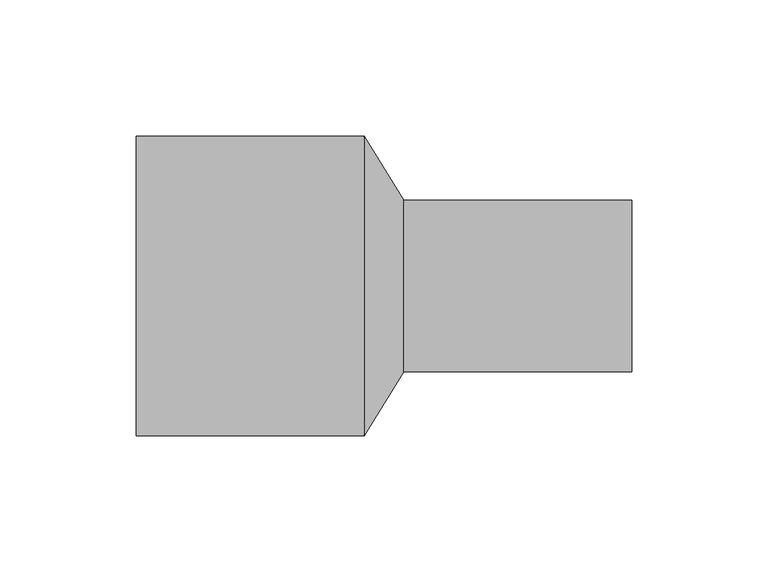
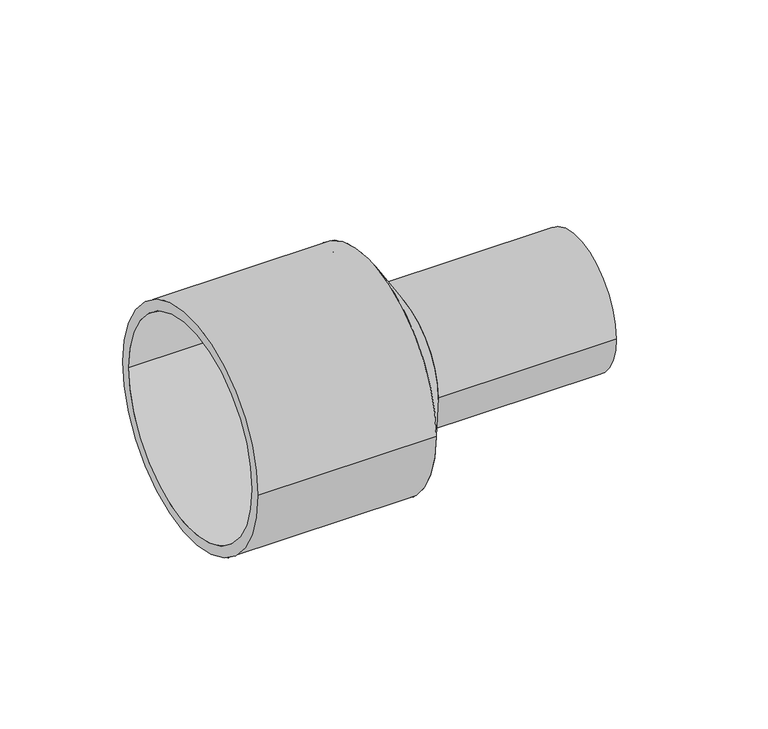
"""IFC4 building model written with IfcOpenShell, lengths in millimetres: pipe fitting geometry, EGB_VASEN_ PPR_Manguito reductor a tope WXRB110 : Manguito reductor a tope WXRB110."""

from ifc_helpers import new_model, si_unit, point, frame, origin, origin_2d, place, context, project, spatial, polyline, circle_curve, trimmed, segment, composite_curve, outline, extrude, source, transform, mapped, element, save
from ifc_brep_helpers import plane_surface, revolved_surface, advanced_brep


def pipe_fitting_4f7f3c7f(model_context):
    return source(origin(), model_context, "Body", "SolidModel", [
        extrude(outline(composite_curve([segment(trimmed(circle_curve(origin_2d(), 31.5), [point((-31.5, 0.0))], [point((31.5, 0.0))], False, "CARTESIAN"), True, "CONTINUOUS"), segment(trimmed(circle_curve(origin_2d(), 31.5), [point((31.5, 0.0))], [point((-31.5, 0.0))], False, "CARTESIAN"), True, "CONTINUOUS")], self_intersect=False), holes=[composite_curve([segment(trimmed(circle_curve(origin_2d(), 26.5), [point((-26.5, 0.0))], [point((26.5, 0.0))], True, "CARTESIAN"), True, "CONTINUOUS"), segment(trimmed(circle_curve(origin_2d(), 26.5), [point((26.5, 0.0))], [point((-26.5, 0.0))], True, "CARTESIAN"), True, "CONTINUOUS")], self_intersect=False)]), frame((7.28, 0.0, 0.0), z_axis=(1.0, 0.0, 0.0), x_axis=(0.0, 1.0, 0.0)), (0.0, 0.0, 1.0), 83.72),
        extrude(outline(composite_curve([segment(trimmed(circle_curve(origin_2d(), 55.0), [point((-55.0, 0.0))], [point((55.0, 0.0))], False, "CARTESIAN"), True, "CONTINUOUS"), segment(trimmed(circle_curve(origin_2d(), 55.0), [point((55.0, 0.0))], [point((-55.0, 0.0))], False, "CARTESIAN"), True, "CONTINUOUS")], self_intersect=False), holes=[composite_curve([segment(trimmed(circle_curve(origin_2d(), 50.0), [point((-50.0, 0.0))], [point((50.0, 0.0))], True, "CARTESIAN"), True, "CONTINUOUS"), segment(trimmed(circle_curve(origin_2d(), 50.0), [point((50.0, 0.0))], [point((-50.0, 0.0))], True, "CARTESIAN"), True, "CONTINUOUS")], self_intersect=False)]), frame((-91.0, 0.0, 0.0), z_axis=(1.0, 0.0, 0.0), x_axis=(0.0, 1.0, 0.0)), (0.0, 0.0, 1.0), 83.72),
        advanced_brep(
        [(7.28, -31.5, 0.0), (7.28, 31.5, 0.0), (-7.28, -55.0, 0.0), (-7.28, 55.0, 0.0)],
        [
            (0, 1, circle_curve(frame((7.28, 0.0, 0.0), z_axis=(1.0, 0.0, 0.0), x_axis=(0.0, -1.0, 0.0)), 31.5)),
            (1, 0, circle_curve(frame((7.28, 0.0, 0.0), z_axis=(1.0, 0.0, 0.0), x_axis=(0.0, 1.0, 0.0)), 31.5)),
            (2, 3, circle_curve(frame((-7.28, 0.0, 0.0), z_axis=(-1.0, 0.0, 0.0), x_axis=(0.0, 1.0, 0.0)), 55.0)),
            (3, 2, circle_curve(frame((-7.28, 0.0, 0.0), z_axis=(-1.0, 0.0, 0.0), x_axis=(0.0, -1.0, 0.0)), 55.0)),
            (3, 1),
            (0, 2),
        ],
        [
            plane_surface(frame((7.28, 0.0, 0.0), z_axis=(1.0, 0.0, 0.0), x_axis=(0.0, 0.0, -1.0))),
            plane_surface(frame((-7.28, 0.0, 0.0), z_axis=(-1.0, 0.0, 0.0), x_axis=(0.0, 0.0, -1.0))),
            revolved_surface(polyline([(7.280000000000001, -31.499999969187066, 0.0), (-7.279999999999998, -55.0, 0.0)]), (26.7965957, 0.0, 0.0), (-1.0, 0.0, 0.0)),
            revolved_surface(polyline([(7.280000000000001, 31.499999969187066, 0.0), (-7.279999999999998, 55.0, 0.0)]), (26.7965957, 0.0, 0.0), (-1.0, 0.0, 0.0)),
        ],
        [
            (0, [[1, 2]]),
            (1, [[3, 4]]),
            (2, [[-4, 5, -1, 6]]),
            (3, [[-3, -6, -2, -5]]),
        ],
    ),
    ])


if __name__ == "__main__":
    model = new_model("IFC4")
    model_context = context("Model", 3, world=origin())
    ifc_project = project(units=[si_unit("LENGTHUNIT", "METRE", prefix="MILLI")], contexts=[model_context])
    site = spatial("IfcSite", under=ifc_project)
    building = spatial("IfcBuilding", under=site)
    placement = place(None, origin())
    pipe_fitting_shape = pipe_fitting_4f7f3c7f(model_context)
    element("IfcPipeFitting", 1, ObjectType="EGB_VASEN_ PPR_Manguito reductor a tope WXRB110 : Manguito reductor a tope WXRB110", at=placement, inside=building, context=model_context, shape_type="MappedRepresentation", body=[
        mapped(pipe_fitting_shape, transform((0.0, 0.0, 0.0), x_axis=(1.0, 0.0, 0.0), y_axis=(0.0, 1.0, 0.0), z_axis=(0.0, 0.0, 1.0))),
    ])
    save(model, "model.ifc")
